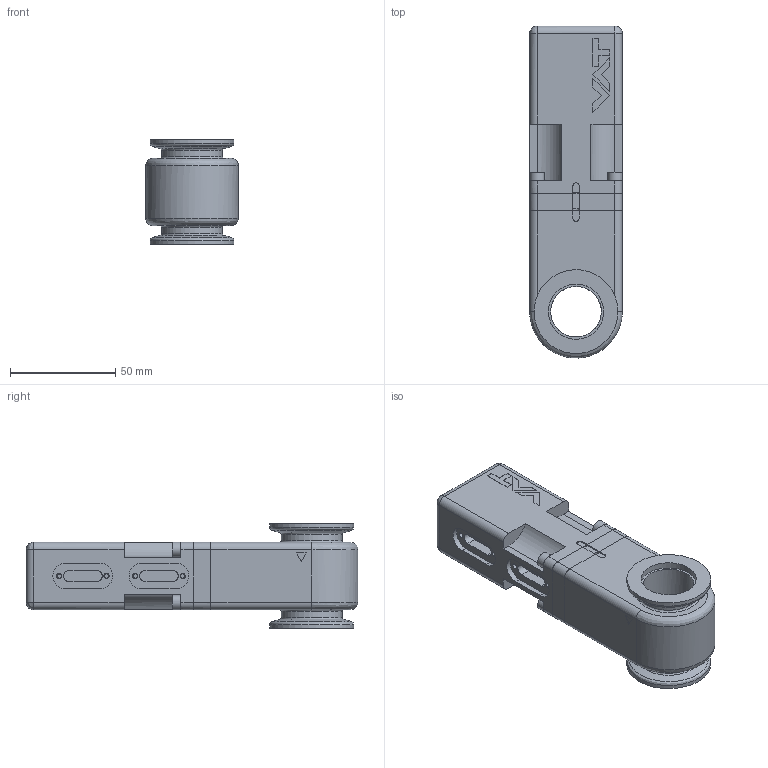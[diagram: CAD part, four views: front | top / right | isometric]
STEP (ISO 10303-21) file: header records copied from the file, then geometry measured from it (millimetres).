
FILE_DESCRIPTION((''),'2;1');
FILE_NAME('n:\work\wid\237144.stp','2005-06-23T16:41:31',('User'),( 'SDRC'),'I-DEAS Master Series 9','UNIX','Yes');
FILE_SCHEMA(('CONFIG_CONTROL_DESIGN'));
Length unit declared in the file: millimetre
Assembly tree (7 placements, depth 0):
Bounding box: 44 x 157.87 x 49.9 mm (x, y, z)
Volume: 142293.6 mm3; surface area: 53357.3 mm2
Topology: 15 solids, 15 shells, 391 faces, 917 edges, 588 vertices
Faces by surface type: bspline 391
Entity records: 11741 total; most frequent: CARTESIAN_POINT 6258, ORIENTED_EDGE 1580, EDGE_CURVE 790, VERTEX_POINT 511, EDGE_LOOP 409, QUASI_UNIFORM_CURVE 347, FACE_OUTER_BOUND 334, ADVANCED_FACE 334
